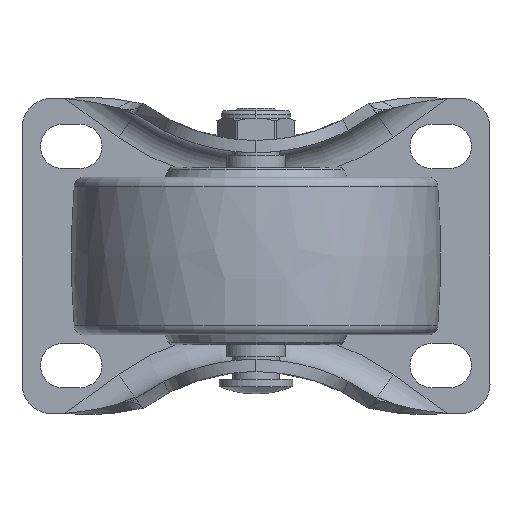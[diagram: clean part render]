
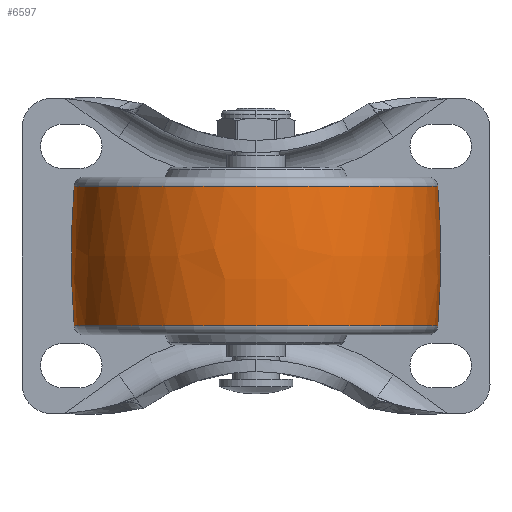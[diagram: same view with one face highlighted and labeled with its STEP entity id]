
A CAD part, front view. The second image highlights one B-rep face of the part: STEP entity #6597.
In plain terms, the highlighted free-form (B-spline) face has degree [3, 3] with [7, 4] control points.
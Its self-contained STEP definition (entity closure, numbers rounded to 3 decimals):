
#6155=CARTESIAN_POINT('',(-0.009,-132.5,
0.));
#6156=DIRECTION('',(0.,0.,1.));
#6157=DIRECTION('',(0.083,0.997,0.));
#6158=AXIS2_PLACEMENT_3D('',#6155,#6156,#6157);
#6160=CARTESIAN_POINT('',(-0.009,132.5,
0.));
#6161=DIRECTION('',(0.,0.,-1.));
#6162=DIRECTION('',(0.083,-0.997,0.));
#6163=AXIS2_PLACEMENT_3D('',#6160,#6161,#6162);
#6165=CARTESIAN_POINT('',(14.184,0.,0.));
#6166=DIRECTION('',(-1.,0.,0.));
#6167=DIRECTION('',(0.,1.,0.));
#6168=AXIS2_PLACEMENT_3D('',#6165,#6166,#6167);
#6190=CARTESIAN_POINT('',(-14.166,0.,0.));
#6191=DIRECTION('',(-1.,0.,0.));
#6192=DIRECTION('',(0.,1.,0.));
#6193=AXIS2_PLACEMENT_3D('',#6190,#6191,#6192);
#6278=CARTESIAN_POINT('',(14.184,36.907,0.));
#6280=VERTEX_POINT('',#6278);
#6281=CARTESIAN_POINT('',(-14.166,36.91,0.));
#6282=VERTEX_POINT('',#6281);
#6306=CARTESIAN_POINT('',(14.184,-36.907,0.));
#6308=VERTEX_POINT('',#6306);
#6309=CARTESIAN_POINT('',(-14.166,-36.91,0.));
#6310=VERTEX_POINT('',#6309);
#6559=CARTESIAN_POINT('',(-14.732,-36.789,
2.315));
#6560=CARTESIAN_POINT('',(-4.917,-37.641,
2.368));
#6561=CARTESIAN_POINT('',(4.935,-37.639,2.368));
#6562=CARTESIAN_POINT('',(14.75,-36.786,2.314));
#6563=CARTESIAN_POINT('',(-14.732,-38.213,
-20.325));
#6564=CARTESIAN_POINT('',(-4.917,-39.098,
-20.796));
#6565=CARTESIAN_POINT('',(4.935,-39.097,
-20.795));
#6566=CARTESIAN_POINT('',(14.75,-38.21,
-20.324));
#6567=CARTESIAN_POINT('',(-14.732,-22.685,
-36.862));
#6568=CARTESIAN_POINT('',(-4.917,-23.21,
-37.715));
#6569=CARTESIAN_POINT('',(4.935,-23.209,
-37.714));
#6570=CARTESIAN_POINT('',(14.75,-22.683,
-36.859));
#6571=CARTESIAN_POINT('',(-14.732,0.,
-36.862));
#6572=CARTESIAN_POINT('',(-4.917,0.,
-37.715));
#6573=CARTESIAN_POINT('',(4.935,0.,
-37.714));
#6574=CARTESIAN_POINT('',(14.75,0.,
-36.859));
#6575=CARTESIAN_POINT('',(-14.732,22.685,
-36.862));
#6576=CARTESIAN_POINT('',(-4.917,23.21,
-37.715));
#6577=CARTESIAN_POINT('',(4.935,23.209,-37.714));
#6578=CARTESIAN_POINT('',(14.75,22.683,-36.859));
#6579=CARTESIAN_POINT('',(-14.732,38.213,
-20.325));
#6580=CARTESIAN_POINT('',(-4.917,39.098,
-20.796));
#6581=CARTESIAN_POINT('',(4.935,39.097,-20.795));
#6582=CARTESIAN_POINT('',(14.75,38.21,-20.324));
#6583=CARTESIAN_POINT('',(-14.732,36.789,2.315));
#6584=CARTESIAN_POINT('',(-4.917,37.641,2.368));
#6585=CARTESIAN_POINT('',(4.935,37.639,2.368));
#6586=CARTESIAN_POINT('',(14.75,36.786,2.314));
#6587=(BOUNDED_SURFACE()B_SPLINE_SURFACE(3,3,((#6559,#6560,#6561,#6562),(#6563,
#6564,#6565,#6566),(#6567,#6568,#6569,#6570),(#6571,#6572,#6573,#6574),(#6575,
#6576,#6577,#6578),(#6579,#6580,#6581,#6582),(#6583,#6584,#6585,#6586)),
.UNSPECIFIED.,.F.,.F.,.F.)B_SPLINE_SURFACE_WITH_KNOTS((4,3,4),(4,4),(0.,1.,
2.),(0.,1.),.UNSPECIFIED.)GEOMETRIC_REPRESENTATION_ITEM()RATIONAL_B_SPLINE_SURFACE(((1.19,1.187,1.187,1.19),(
0.939,0.937,0.937,0.939),(
0.939,0.937,0.937,0.939),(
1.19,1.187,1.187,1.19),(
0.939,0.937,0.937,0.939),(
0.939,0.937,0.937,0.939),(
1.19,1.187,1.187,1.19)))REPRESENTATION_ITEM('')SURFACE());
#6589=ORIENTED_EDGE('',*,*,#6588,.T.);
#6591=ORIENTED_EDGE('',*,*,#6590,.T.);
#6593=ORIENTED_EDGE('',*,*,#6592,.F.);
#6594=ORIENTED_EDGE('',*,*,#6552,.F.);
#6595=EDGE_LOOP('',(#6589,#6591,#6593,#6594));
#6596=FACE_OUTER_BOUND('',#6595,.F.);
#6159=CIRCLE('',#6158,170.);
#6164=CIRCLE('',#6163,170.);
#6169=CIRCLE('',#6168,36.907);
#6194=CIRCLE('',#6193,36.91);
#6552=EDGE_CURVE('',#6280,#6308,#6169,.T.);
#6588=EDGE_CURVE('',#6280,#6282,#6159,.T.);
#6590=EDGE_CURVE('',#6282,#6310,#6194,.T.);
#6592=EDGE_CURVE('',#6308,#6310,#6164,.T.);
#6597=ADVANCED_FACE('',(#6596),#6587,.T.);
